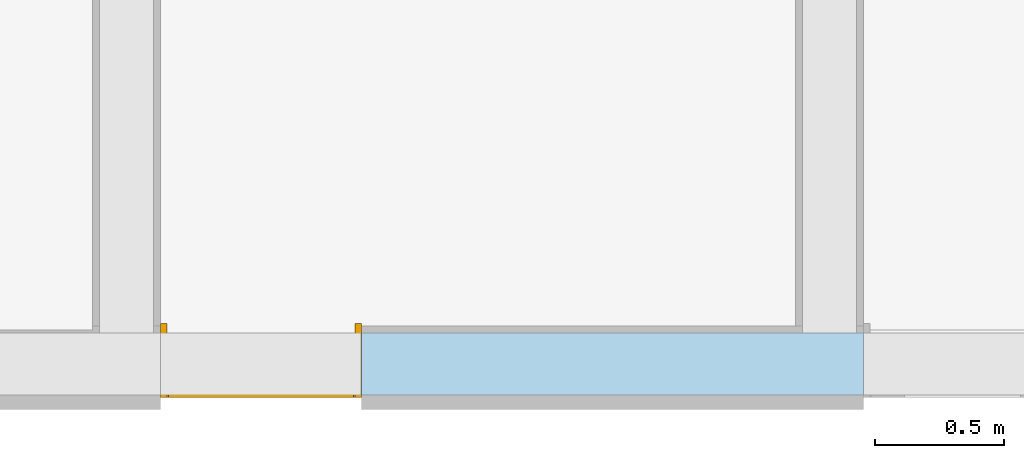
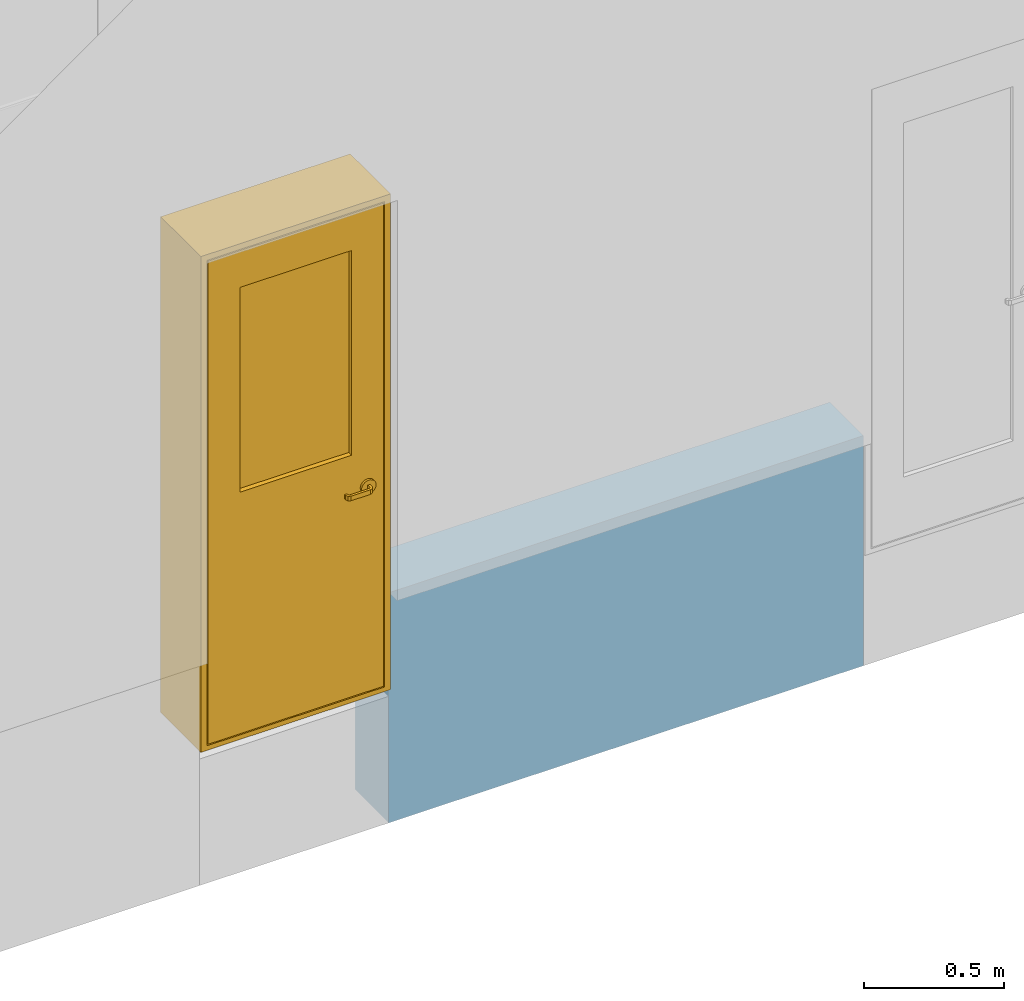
# One storey, part 20 of 22: 1 door, 2 openings, plus 1 element that does not belong to this part.
"""IFC4X3 building model written with IfcOpenShell, lengths in millimetres."""

from ifc_helpers import new_model, entity, si_unit, converted_unit, derived_unit, direction, frame, frame_2d, origin, origin_2d_with_axis, place, context, subcontext, project, spatial, rectangle, extrude, faceted_brep, source, transform, mapped, material, layer, layer_set, constituent, constituent_set, type_object, type_shapes, element, fill, save


model = new_model("IFC4X3")

# Units and contexts
model_context = context("Model", 3, precision=0.01, world=origin(), true_north=direction((6.12303176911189e-17, 1.0)))
body_context = subcontext(model_context, "Body", "Model", "MODEL_VIEW")
ifc_project = project(units=[si_unit("LENGTHUNIT", "METRE", prefix="MILLI"), si_unit("AREAUNIT", "SQUARE_METRE"), si_unit("VOLUMEUNIT", "CUBIC_METRE"), converted_unit("PLANEANGLEUNIT", "DEGREE", entity("IfcPlaneAngleMeasure", 0.0174532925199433), si_unit("PLANEANGLEUNIT", "RADIAN"), dimensions=[0, 0, 0, 0, 0, 0, 0]), si_unit("MASSUNIT", "GRAM", prefix="KILO"), derived_unit("MASSDENSITYUNIT", [(si_unit("MASSUNIT", "GRAM", prefix="KILO"), 1), (si_unit("LENGTHUNIT", "METRE"), -3)]), derived_unit("IONCONCENTRATIONUNIT", [(si_unit("MASSUNIT", "GRAM", prefix="KILO"), 1), (si_unit("LENGTHUNIT", "METRE"), -3)]), derived_unit("MOMENTOFINERTIAUNIT", [(si_unit("LENGTHUNIT", "METRE"), 4)]), si_unit("TIMEUNIT", "SECOND"), si_unit("FREQUENCYUNIT", "HERTZ"), si_unit("THERMODYNAMICTEMPERATUREUNIT", "DEGREE_CELSIUS"), derived_unit("THERMALTRANSMITTANCEUNIT", [(si_unit("MASSUNIT", "GRAM", prefix="KILO"), 1), (si_unit("THERMODYNAMICTEMPERATUREUNIT", "KELVIN"), -1), (si_unit("TIMEUNIT", "SECOND"), -3)]), derived_unit("THERMALCONDUCTANCEUNIT", [(si_unit("MASSUNIT", "GRAM", prefix="KILO"), 1), (si_unit("THERMODYNAMICTEMPERATUREUNIT", "KELVIN"), -1), (si_unit("TIMEUNIT", "SECOND"), -3), (si_unit("LENGTHUNIT", "METRE"), 1)]), derived_unit("VOLUMETRICFLOWRATEUNIT", [(si_unit("LENGTHUNIT", "METRE", prefix="DECI"), 3), (si_unit("TIMEUNIT", "SECOND"), -1)]), derived_unit("MASSFLOWRATEUNIT", [(si_unit("MASSUNIT", "GRAM", prefix="KILO"), 1), (si_unit("TIMEUNIT", "SECOND"), -1)]), derived_unit("ROTATIONALFREQUENCYUNIT", [(si_unit("TIMEUNIT", "SECOND"), -1)]), si_unit("ELECTRICCURRENTUNIT", "AMPERE"), si_unit("ELECTRICVOLTAGEUNIT", "VOLT"), si_unit("POWERUNIT", "WATT"), si_unit("FORCEUNIT", "NEWTON", prefix="KILO"), si_unit("ILLUMINANCEUNIT", "LUX"), si_unit("LUMINOUSFLUXUNIT", "LUMEN"), si_unit("LUMINOUSINTENSITYUNIT", "CANDELA"), si_unit("ENERGYUNIT", "JOULE"), derived_unit("USERDEFINED", [(si_unit("MASSUNIT", "GRAM", prefix="KILO"), -1), (si_unit("LENGTHUNIT", "METRE"), -2), (si_unit("TIMEUNIT", "SECOND"), 3), (si_unit("LUMINOUSFLUXUNIT", "LUMEN"), 1)]), derived_unit("USERDEFINED", [(si_unit("MASSUNIT", "GRAM", prefix="KILO"), 1), (si_unit("TIMEUNIT", "SECOND"), -3), (si_unit("LENGTHUNIT", "METRE"), 3), (si_unit("ELECTRICCURRENTUNIT", "AMPERE"), -2)]), derived_unit("SOUNDPOWERUNIT", [(si_unit("MASSUNIT", "GRAM", prefix="KILO"), 1), (si_unit("TIMEUNIT", "SECOND"), -3), (si_unit("LENGTHUNIT", "METRE"), 2)]), derived_unit("SOUNDPRESSUREUNIT", [(si_unit("MASSUNIT", "GRAM", prefix="KILO"), 1), (si_unit("LENGTHUNIT", "METRE"), -1), (si_unit("TIMEUNIT", "SECOND"), -2)]), derived_unit("LINEARVELOCITYUNIT", [(si_unit("LENGTHUNIT", "METRE"), 1), (si_unit("TIMEUNIT", "SECOND"), -1)]), si_unit("PRESSUREUNIT", "PASCAL"), derived_unit("USERDEFINED", [(si_unit("MASSUNIT", "GRAM", prefix="KILO"), 1), (si_unit("LENGTHUNIT", "METRE"), -2), (si_unit("TIMEUNIT", "SECOND"), -2)]), derived_unit("LINEARFORCEUNIT", [(si_unit("MASSUNIT", "GRAM", prefix="KILO"), 1), (si_unit("TIMEUNIT", "SECOND"), -2)]), derived_unit("PLANARFORCEUNIT", [(si_unit("MASSUNIT", "GRAM", prefix="KILO"), 1), (si_unit("LENGTHUNIT", "METRE"), -1), (si_unit("TIMEUNIT", "SECOND"), -2)]), derived_unit("SPECIFICHEATCAPACITYUNIT", [(si_unit("THERMODYNAMICTEMPERATUREUNIT", "KELVIN"), -1), (si_unit("LENGTHUNIT", "METRE"), 2), (si_unit("TIMEUNIT", "SECOND"), -2)]), derived_unit("HEATFLUXDENSITYUNIT", [(si_unit("MASSUNIT", "GRAM", prefix="KILO"), 1), (si_unit("TIMEUNIT", "SECOND"), -3)]), derived_unit("HEATINGVALUEUNIT", [(si_unit("LENGTHUNIT", "METRE"), 2), (si_unit("TIMEUNIT", "SECOND"), -2)]), derived_unit("VAPORPERMEABILITYUNIT", [(si_unit("LENGTHUNIT", "METRE"), -1), (si_unit("TIMEUNIT", "SECOND"), 1)]), derived_unit("DYNAMICVISCOSITYUNIT", [(si_unit("MASSUNIT", "GRAM", prefix="KILO"), 1), (si_unit("TIMEUNIT", "SECOND"), -1), (si_unit("LENGTHUNIT", "METRE"), -1)]), derived_unit("THERMALEXPANSIONCOEFFICIENTUNIT", [(si_unit("THERMODYNAMICTEMPERATUREUNIT", "KELVIN"), -1)]), derived_unit("MODULUSOFELASTICITYUNIT", [(si_unit("MASSUNIT", "GRAM", prefix="KILO"), 1), (si_unit("LENGTHUNIT", "METRE"), -1), (si_unit("TIMEUNIT", "SECOND"), -2)]), derived_unit("ISOTHERMALMOISTURECAPACITYUNIT", [(si_unit("MASSUNIT", "GRAM", prefix="KILO"), -1), (si_unit("LENGTHUNIT", "METRE"), 3)]), derived_unit("MOISTUREDIFFUSIVITYUNIT", [(si_unit("TIMEUNIT", "SECOND"), -1), (si_unit("LENGTHUNIT", "METRE"), 2)]), derived_unit("AREADENSITYUNIT", [(si_unit("MASSUNIT", "GRAM", prefix="KILO"), 1), (si_unit("LENGTHUNIT", "METRE"), 2)]), derived_unit("MASSPERLENGTHUNIT", [(si_unit("MASSUNIT", "GRAM", prefix="KILO"), 1), (si_unit("LENGTHUNIT", "METRE"), -1)]), derived_unit("THERMALRESISTANCEUNIT", [(si_unit("MASSUNIT", "GRAM", prefix="KILO"), -1), (si_unit("TIMEUNIT", "SECOND"), 3), (si_unit("THERMODYNAMICTEMPERATUREUNIT", "KELVIN"), 1)]), derived_unit("ACCELERATIONUNIT", [(si_unit("LENGTHUNIT", "METRE"), 1), (si_unit("TIMEUNIT", "SECOND"), -2)]), derived_unit("ANGULARVELOCITYUNIT", [(si_unit("TIMEUNIT", "SECOND"), -1), (si_unit("PLANEANGLEUNIT", "RADIAN"), 1)]), derived_unit("LINEARSTIFFNESSUNIT", [(si_unit("MASSUNIT", "GRAM", prefix="KILO"), 1), (si_unit("TIMEUNIT", "SECOND"), -2)]), derived_unit("WARPINGCONSTANTUNIT", [(si_unit("LENGTHUNIT", "METRE"), 6)]), derived_unit("LINEARMOMENTUNIT", [(si_unit("MASSUNIT", "GRAM", prefix="KILO"), 1), (si_unit("LENGTHUNIT", "METRE"), 1), (si_unit("TIMEUNIT", "SECOND"), -2)]), derived_unit("TORQUEUNIT", [(si_unit("MASSUNIT", "GRAM", prefix="KILO"), 1), (si_unit("LENGTHUNIT", "METRE"), 2), (si_unit("TIMEUNIT", "SECOND"), -2)])], contexts=[model_context])

# Site, building, storey
site_placement = place(None, origin())
site = spatial("IfcSite", under=ifc_project, at=site_placement, Name="Default", CompositionType="ELEMENT")
building_placement = place(site_placement, origin())
building = spatial("IfcBuilding", under=site, at=building_placement, Name="事務所ビル", CompositionType="ELEMENT")
storey_placement = place(building_placement, origin())
storey = spatial("IfcBuildingStorey", under=building, at=storey_placement, Name="1FL", CompositionType="ELEMENT", Elevation=0.0)

# Wall, openings, door
ifc_material_1 = material(Name="*コンクリート")
ifc_layer = layer(ifc_material_1, 240.0, Name="*コンクリート")
ifc_layer_set = layer_set([ifc_layer], Name="標準壁:(基礎梁)RC_w240h1000")
wall_type = type_object("IfcWallType", Name="標準壁:(基礎梁)RC_w240h1000", PredefinedType="STANDARD", material=ifc_layer_set)
wall_placement = place(storey_placement, frame((20020.0, 0.0, -600.0)))
wall = element("IfcWall", 1, at=wall_placement, inside=storey, type_object=wall_type, material=ifc_layer_set, Name="標準壁:(基礎梁)RC_w240h1000", ObjectType="標準壁:(基礎梁)RC_w240h1000", PredefinedType="NOTDEFINED", context=body_context, shape_type="SweptSolid", body=[
    extrude(rectangle(XDim=1952.00000000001, YDim=240.0, at=frame_2d((976.000000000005, 0.0), x_axis=(-1.0, 0.0))), origin(), (0.0, 0.0, 1.0), 1000.0),
])
opening_1_placement = place(wall_placement, frame((-20020.0, 0.0, 500.0)))
element("IfcOpeningElement", 2, at=opening_1_placement, cuts=wall, Name="標準壁:(基礎梁)RC_w240h1000", PredefinedType="OPENING", context=body_context, shape_type="SweptSolid", body=[
    extrude(rectangle(XDim=2055.00000000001, YDim=1480.0, at=origin_2d_with_axis()), frame((22712.0, -1404.0, 1012.49999999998), z_axis=(0.0, 1.0, 0.0), x_axis=(0.0, 0.0, -1.0)), (0.0, 0.0, 1.0), 3048.0),
])
opening_2_placement = place(wall_placement, frame((2.0, 120.0, 585.0)))
opening_2 = element("IfcOpeningElement", 3, at=opening_2_placement, cuts=wall, Name="鋼製_大枠_片開き_窓付:700x2100:1", PredefinedType="OPENING", context=body_context, shape_type="SweptSolid", body=[
    extrude(rectangle(XDim=2155.00000000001, YDim=779.999999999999, at=frame_2d((1077.5, 390.0), x_axis=(-1.0, 0.0))), frame((0.0, 0.0, 0.0), z_axis=(0.0, -1.0, 0.0), x_axis=(0.0, 0.0, 1.0)), (0.0, 0.0, 1.0), 240.0),
])
ifc_material_2 = material(Name="ステンレス", Category="未設定")
ifc_constituent_1 = constituent(ifc_material_2, Name="ステンレス", Category="未設定")
ifc_material_3 = material(Name="塗装 - 白", Category="未設定")
ifc_constituent_2 = constituent(ifc_material_3, Name="塗装 - 白", Category="未設定")
ifc_material_4 = material(Name="ガラス", Category="ガラス")
ifc_constituent_3 = constituent(ifc_material_4, Name="ガラス", Category="ガラス")
ifc_constituent_set_1 = constituent_set(constituents=[ifc_constituent_1, ifc_constituent_2, ifc_constituent_3])
ifc_constituent_4 = constituent(ifc_material_2, Name="ハンドル", Category="未設定")
ifc_constituent_5 = constituent(ifc_material_3, Name="パネル", Category="未設定")
ifc_constituent_6 = constituent(ifc_material_4, Name="ガラス", Category="ガラス")
ifc_constituent_7 = constituent(ifc_material_3, Name="フレーム/マリオン", Category="未設定")
ifc_constituent_set_2 = constituent_set(constituents=[ifc_constituent_4, ifc_constituent_5, ifc_constituent_6, ifc_constituent_7])
door_type = type_object("IfcDoorType", Name="鋼製_大枠_片開き_窓付:700x2100", OperationType="SINGLE_SWING_RIGHT", ParameterTakesPrecedence=False, PredefinedType="DOOR", material=ifc_constituent_set_2)
shared_shape = source(origin(), body_context, "Body", "Brep", [
    faceted_brep([(90.0, 260.0, 930.0), (90.0, 260.0, 910.0), (100.0, 260.0, 910.0), (100.0, 260.0, 930.0), (100.0, 275.0, 910.0), (100.0, 275.0, 930.0), (190.0, 270.0, 930.0), (200.0, 270.0, 930.0), (200.0, 275.0, 930.0), (198.349630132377, 278.984345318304, 930.0), (196.978115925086, 282.295473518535, 930.0), (195.606601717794, 285.606601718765, 930.0), (192.954951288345, 286.704951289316, 930.0), (190.303300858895, 287.803300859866, 930.0), (187.651650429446, 288.901650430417, 930.0), (185.0, 290.0, 930.0), (105.0, 290.0, 930.0), (101.015654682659, 288.349630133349, 930.0), (97.7045264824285, 286.978115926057, 930.0), (94.3933982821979, 285.606601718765, 930.0), (93.2950487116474, 282.954951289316, 930.0), (92.196699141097, 280.303300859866, 930.0), (91.0983495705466, 277.651650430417, 930.0), (90.0, 275.0, 930.0), (101.464466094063, 278.5355339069, 930.0), (105.0, 280.0, 930.0), (185.0, 280.0, 930.0), (188.535533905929, 278.5355339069, 930.0), (190.0, 275.0, 930.0), (90.0, 275.0, 910.0), (90.8251847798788, 276.992172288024, 910.0), (92.196699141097, 280.303300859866, 910.0), (93.2950487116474, 282.954951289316, 910.0), (94.3933982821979, 285.606601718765, 910.0), (97.0450487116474, 286.704951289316, 910.0), (99.6966991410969, 287.803300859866, 910.0), (102.348349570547, 288.901650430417, 910.0), (105.0, 290.0, 910.0), (185.0, 290.0, 910.0), (186.992172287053, 289.174815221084, 910.0), (190.303300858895, 287.803300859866, 910.0), (192.954951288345, 286.704951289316, 910.0), (195.606601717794, 285.606601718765, 910.0), (196.704951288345, 282.954951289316, 910.0), (197.803300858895, 280.303300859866, 910.0), (198.901650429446, 277.651650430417, 910.0), (200.0, 275.0, 910.0), (200.0, 270.0, 910.0), (190.0, 270.0, 910.0), (190.0, 275.0, 910.0), (188.535533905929, 278.5355339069, 910.0), (185.0, 280.0, 910.0), (105.0, 280.0, 910.0), (101.464466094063, 278.5355339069, 910.0)], [[[0, 1, 2, 3]], [[3, 2, 4, 5]], [[6, 7, 8, 9, 10, 11, 12, 13, 14, 15, 16, 17, 18, 19, 20, 21, 22, 23, 0, 3, 5, 24, 25, 26, 27, 28]], [[1, 0, 23, 29]], [[2, 1, 29, 30, 31, 32, 33, 34, 35, 36, 37, 38, 39, 40, 41, 42, 43, 44, 45, 46, 47, 48, 49, 50, 51, 52, 53, 4]], [[53, 24, 5, 4]], [[52, 25, 24, 53]], [[21, 20, 19, 33, 32, 31, 30, 29, 23, 22]], [[33, 19, 18, 17, 16, 37, 36, 35, 34]], [[25, 52, 51, 26]], [[37, 16, 15, 38]], [[50, 27, 26, 51]], [[49, 28, 27, 50]], [[13, 12, 11, 42, 41, 40, 39, 38, 15, 14]], [[42, 11, 10, 9, 8, 46, 45, 44, 43]], [[7, 6, 48, 47]], [[28, 49, 48, 6]], [[46, 8, 7, 47]]]),
    faceted_brep([(110.0, 260.0, 945.980762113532), (116.213203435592, 260.0, 941.213203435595), (120.980762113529, 260.0, 935.0), (123.977774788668, 260.0, 927.764571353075), (125.0, 260.0, 920.0), (123.977774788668, 260.0, 912.235428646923), (120.980762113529, 260.0, 905.0), (116.213203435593, 260.0, 898.786796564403), (110.0, 260.0, 894.019237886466), (102.764571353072, 260.0, 891.022225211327), (95.0, 260.0, 890.0), (87.2354286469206, 260.0, 891.022225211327), (80.0, 260.0, 894.019237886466), (73.7867965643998, 260.0, 898.786796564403), (69.0192378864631, 260.0, 905.0), (66.0222252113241, 260.0, 912.235428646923), (65.0, 260.0, 920.0), (66.022225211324, 260.0, 927.764571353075), (69.0192378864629, 260.0, 935.0), (73.7867965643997, 260.0, 941.213203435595), (80.0, 260.0, 945.980762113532), (87.2354286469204, 260.0, 948.977774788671), (95.0, 260.0, 950.0), (102.764571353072, 260.0, 948.977774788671), (116.213203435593, 250.0, 898.786796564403), (120.980762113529, 250.0, 905.0), (123.977774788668, 250.0, 912.235428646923), (125.0, 250.0, 920.0), (123.977774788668, 250.0, 927.764571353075), (120.980762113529, 250.0, 935.0), (116.213203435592, 250.0, 941.213203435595), (110.0, 250.0, 945.980762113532), (102.764571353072, 250.0, 948.977774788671), (95.0, 250.0, 950.0), (87.2354286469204, 250.0, 948.977774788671), (80.0, 250.0, 945.980762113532), (73.7867965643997, 250.0, 941.213203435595), (69.0192378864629, 250.0, 935.0), (66.022225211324, 250.0, 927.764571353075), (65.0, 250.0, 920.0), (66.0222252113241, 250.0, 912.235428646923), (69.0192378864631, 250.0, 905.0), (73.7867965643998, 250.0, 898.786796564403), (80.0, 250.0, 894.019237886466), (87.2354286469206, 250.0, 891.022225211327), (95.0, 250.0, 890.0), (102.764571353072, 250.0, 891.022225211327), (110.0, 250.0, 894.019237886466)], [[[0, 1, 2, 3, 4, 5, 6, 7, 8, 9, 10, 11, 12, 13, 14, 15, 16, 17, 18, 19, 20, 21, 22, 23]], [[24, 25, 26, 27, 28, 29, 30, 31, 32, 33, 34, 35, 36, 37, 38, 39, 40, 41, 42, 43, 44, 45, 46, 47]], [[38, 17, 16, 39]], [[37, 18, 17, 38]], [[20, 19, 36, 35]], [[37, 36, 19, 18]], [[21, 20, 35, 34]], [[22, 21, 34, 33]], [[32, 23, 22, 33]], [[31, 0, 23, 32]], [[2, 1, 30, 29]], [[31, 30, 1, 0]], [[3, 2, 29, 28]], [[4, 3, 28, 27]], [[26, 5, 4, 27]], [[25, 6, 5, 26]], [[8, 7, 24, 47]], [[25, 24, 7, 6]], [[9, 8, 47, 46]], [[10, 9, 46, 45]], [[44, 11, 10, 45]], [[43, 12, 11, 44]], [[14, 13, 42, 41]], [[43, 42, 13, 12]], [[15, 14, 41, 40]], [[16, 15, 40, 39]]]),
    faceted_brep([(90.0, 200.0, 910.0), (90.0, 200.0, 930.0), (100.0, 200.0, 930.0), (100.0, 200.0, 910.0), (190.0, 190.0, 910.0), (200.0, 190.0, 910.0), (200.0, 185.0, 910.0), (198.349630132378, 181.01565468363, 910.0), (196.978115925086, 177.7045264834, 910.0), (195.606601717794, 174.393398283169, 910.0), (192.954951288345, 173.295048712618, 910.0), (190.303300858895, 172.196699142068, 910.0), (187.651650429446, 171.098349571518, 910.0), (185.0, 170.0, 910.0), (105.0, 170.0, 910.0), (101.015654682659, 171.650369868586, 910.0), (97.7045264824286, 173.021884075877, 910.0), (94.3933982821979, 174.393398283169, 910.0), (93.2950487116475, 177.045048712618, 910.0), (92.196699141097, 179.696699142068, 910.0), (91.0983495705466, 182.348349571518, 910.0), (90.0, 185.0, 910.0), (100.0, 185.0, 910.0), (101.464466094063, 181.464466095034, 910.0), (105.0, 180.0, 910.0), (185.0, 180.0, 910.0), (188.535533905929, 181.464466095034, 910.0), (190.0, 185.0, 910.0), (90.0, 185.0, 930.0), (90.8251847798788, 183.00782771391, 930.0), (92.196699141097, 179.696699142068, 930.0), (93.2950487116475, 177.045048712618, 930.0), (94.3933982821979, 174.393398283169, 930.0), (97.0450487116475, 173.295048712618, 930.0), (99.696699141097, 172.196699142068, 930.0), (102.348349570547, 171.098349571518, 930.0), (105.0, 170.0, 930.0), (185.0, 170.0, 930.0), (186.992172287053, 170.82518478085, 930.0), (190.303300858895, 172.196699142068, 930.0), (192.954951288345, 173.295048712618, 930.0), (195.606601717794, 174.393398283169, 930.0), (196.704951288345, 177.045048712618, 930.0), (197.803300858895, 179.696699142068, 930.0), (198.901650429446, 182.348349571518, 930.0), (200.0, 185.0, 930.0), (200.0, 190.0, 930.0), (190.0, 190.0, 930.0), (190.0, 185.0, 930.0), (188.535533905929, 181.464466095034, 930.0), (185.0, 180.0, 930.0), (105.0, 180.0, 930.0), (101.464466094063, 181.464466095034, 930.0), (100.0, 185.0, 930.0)], [[[0, 1, 2, 3]], [[4, 5, 6, 7, 8, 9, 10, 11, 12, 13, 14, 15, 16, 17, 18, 19, 20, 21, 0, 3, 22, 23, 24, 25, 26, 27]], [[1, 0, 21, 28]], [[2, 1, 28, 29, 30, 31, 32, 33, 34, 35, 36, 37, 38, 39, 40, 41, 42, 43, 44, 45, 46, 47, 48, 49, 50, 51, 52, 53]], [[3, 2, 53, 22]], [[19, 18, 17, 32, 31, 30, 29, 28, 21, 20]], [[32, 17, 16, 15, 14, 36, 35, 34, 33]], [[52, 23, 22, 53]], [[51, 24, 23, 52]], [[36, 14, 13, 37]], [[24, 51, 50, 25]], [[11, 10, 9, 41, 40, 39, 38, 37, 13, 12]], [[41, 9, 8, 7, 6, 45, 44, 43, 42]], [[49, 26, 25, 50]], [[48, 27, 26, 49]], [[5, 4, 47, 46]], [[45, 6, 5, 46]], [[27, 48, 47, 4]]]),
    faceted_brep([(110.0, 200.0, 894.019237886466), (116.213203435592, 200.0, 898.786796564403), (120.980762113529, 200.0, 905.0), (123.977774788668, 200.0, 912.235428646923), (125.0, 200.0, 920.0), (123.977774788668, 200.0, 927.764571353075), (120.980762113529, 200.0, 935.0), (116.213203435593, 200.0, 941.213203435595), (110.0, 200.0, 945.980762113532), (102.764571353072, 200.0, 948.977774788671), (95.0, 200.0, 950.0), (87.2354286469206, 200.0, 948.977774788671), (80.0, 200.0, 945.980762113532), (73.7867965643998, 200.0, 941.213203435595), (69.0192378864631, 200.0, 935.0), (66.0222252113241, 200.0, 927.764571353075), (65.0, 200.0, 920.0), (66.022225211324, 200.0, 912.235428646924), (69.0192378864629, 200.0, 905.0), (73.7867965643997, 200.0, 898.786796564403), (80.0, 200.0, 894.019237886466), (87.2354286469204, 200.0, 891.022225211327), (95.0, 200.0, 890.0), (102.764571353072, 200.0, 891.022225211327), (116.213203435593, 210.0, 941.213203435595), (120.980762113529, 210.0, 935.0), (123.977774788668, 210.0, 927.764571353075), (125.0, 210.0, 920.0), (123.977774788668, 210.0, 912.235428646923), (120.980762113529, 210.0, 905.0), (116.213203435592, 210.0, 898.786796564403), (110.0, 210.0, 894.019237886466), (102.764571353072, 210.0, 891.022225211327), (95.0, 210.0, 890.0), (87.2354286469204, 210.0, 891.022225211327), (80.0, 210.0, 894.019237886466), (73.7867965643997, 210.0, 898.786796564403), (69.0192378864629, 210.0, 905.0), (66.022225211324, 210.0, 912.235428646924), (65.0, 210.0, 920.0), (66.0222252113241, 210.0, 927.764571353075), (69.0192378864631, 210.0, 935.0), (73.7867965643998, 210.0, 941.213203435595), (80.0, 210.0, 945.980762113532), (87.2354286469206, 210.0, 948.977774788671), (95.0, 210.0, 950.0), (102.764571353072, 210.0, 948.977774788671), (110.0, 210.0, 945.980762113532)], [[[0, 1, 2, 3, 4, 5, 6, 7, 8, 9, 10, 11, 12, 13, 14, 15, 16, 17, 18, 19, 20, 21, 22, 23]], [[24, 25, 26, 27, 28, 29, 30, 31, 32, 33, 34, 35, 36, 37, 38, 39, 40, 41, 42, 43, 44, 45, 46, 47]], [[38, 17, 16, 39]], [[37, 18, 17, 38]], [[20, 19, 36, 35]], [[37, 36, 19, 18]], [[21, 20, 35, 34]], [[22, 21, 34, 33]], [[32, 23, 22, 33]], [[31, 0, 23, 32]], [[2, 1, 30, 29]], [[31, 30, 1, 0]], [[3, 2, 29, 28]], [[4, 3, 28, 27]], [[26, 5, 4, 27]], [[25, 6, 5, 26]], [[8, 7, 24, 47]], [[25, 24, 7, 6]], [[9, 8, 47, 46]], [[10, 9, 46, 45]], [[44, 11, 10, 45]], [[43, 12, 11, 44]], [[14, 13, 42, 41]], [[43, 42, 13, 12]], [[15, 14, 41, 40]], [[16, 15, 40, 39]]]),
    faceted_brep([(630.0, 210.0, 1065.0), (630.0, 210.0, 1975.0), (150.0, 210.0, 1975.0), (150.0, 210.0, 1065.0), (620.0, 210.0, 1075.0), (160.0, 210.0, 1075.0), (160.0, 210.0, 1965.0), (620.0, 210.0, 1965.0), (630.0, 250.0, 1065.0), (150.0, 250.0, 1065.0), (150.0, 250.0, 1975.0), (630.0, 250.0, 1975.0), (620.0, 250.0, 1075.0), (620.0, 250.0, 1965.0), (160.0, 250.0, 1965.0), (160.0, 250.0, 1075.0)], [[[0, 1, 2, 3], [4, 5, 6, 7]], [[8, 9, 10, 11], [12, 13, 14, 15]], [[1, 0, 8, 11]], [[2, 1, 11, 10]], [[3, 2, 10, 9]], [[0, 3, 9, 8]], [[5, 4, 12, 15]], [[6, 5, 15, 14]], [[7, 6, 14, 13]], [[4, 7, 13, 12]]]),
    faceted_brep([(630.0, 225.0, 1065.0), (630.0, 225.0, 1975.0), (150.0, 225.0, 1975.0), (150.0, 225.0, 1065.0), (630.0, 230.0, 1065.0), (150.0, 230.0, 1065.0), (150.0, 230.0, 1975.0), (630.0, 230.0, 1975.0)], [[[0, 1, 2, 3]], [[4, 5, 6, 7]], [[1, 0, 4, 7]], [[2, 1, 7, 6]], [[3, 2, 6, 5]], [[0, 3, 5, 4]]]),
    faceted_brep([(750.0, 210.0, 25.0), (750.0, 210.0, 2125.0), (30.0, 210.0, 2125.0), (30.0, 210.0, 25.0), (630.0, 210.0, 1065.0), (150.0, 210.0, 1065.0), (150.0, 210.0, 1975.0), (630.0, 210.0, 1975.0), (750.0, 250.0, 25.0), (30.0, 250.0, 25.0), (30.0, 250.0, 2125.0), (750.0, 250.0, 2125.0), (630.0, 250.0, 1065.0), (630.0, 250.0, 1975.0), (150.0, 250.0, 1975.0), (150.0, 250.0, 1065.0)], [[[0, 1, 2, 3], [4, 5, 6, 7]], [[8, 9, 10, 11], [12, 13, 14, 15]], [[1, 0, 8, 11]], [[2, 1, 11, 10]], [[3, 2, 10, 9]], [[0, 3, 9, 8]], [[5, 4, 12, 15]], [[6, 5, 15, 14]], [[7, 6, 14, 13]], [[4, 7, 13, 12]]]),
    faceted_brep([(755.0, 250.0, 20.0), (755.0, 205.0, 20.0), (755.0, 205.0, 30.0), (755.0, 175.0, 30.0), (755.0, 150.0, 20.0), (755.0, 150.0, 0.0), (755.0, 250.0, 0.0), (25.0, 250.0, 20.0), (25.0, 250.0, 0.0), (25.0, 150.0, 0.0), (25.0, 150.0, 20.0), (25.0, 175.0, 30.0), (25.0, 205.0, 30.0), (25.0, 205.0, 20.0)], [[[0, 1, 2, 3, 4, 5, 6]], [[7, 8, 9, 10, 11, 12, 13]], [[1, 0, 7, 13]], [[2, 1, 13, 12]], [[3, 2, 12, 11]], [[4, 3, 11, 10]], [[5, 4, 10, 9]], [[6, 5, 9, 8]], [[0, 6, 8, 7]]]),
    faceted_brep([(25.0, 250.0, 0.0), (25.0, 205.0, 0.0), (40.0, 205.0, 0.0), (40.0, 175.0, 0.0), (25.0, 175.0, 0.0), (25.0, -37.0, 0.0), (0.0, -37.0, 0.0), (0.0, 250.0, 0.0), (25.0, 250.0, 2130.0), (25.0, 205.0, 2130.0), (755.0, 205.0, 2130.0), (755.0, 205.0, 0.0), (740.0, 205.0, 0.0), (740.0, 205.0, 2115.0), (40.0, 205.0, 2115.0), (40.0, 175.0, 2115.0), (740.0, 175.0, 2115.0), (740.0, 175.0, 0.0), (755.0, 175.0, 0.0), (755.0, 175.0, 2130.0), (25.0, 175.0, 2130.0), (25.0, -37.0, 2130.0), (755.0, -37.0, 2130.0), (755.0, -37.0, 0.0), (780.0, -37.0, 0.0), (780.0, -37.0, 2155.0), (0.0, -37.0, 2155.0), (0.0, 250.0, 2155.0), (780.0, 250.0, 2155.0), (780.0, 250.0, 0.0), (755.0, 250.0, 0.0), (755.0, 250.0, 2130.0)], [[[0, 1, 2, 3, 4, 5, 6, 7]], [[1, 0, 8, 9]], [[2, 1, 9, 10, 11, 12, 13, 14]], [[3, 2, 14, 15]], [[4, 3, 15, 16, 17, 18, 19, 20]], [[5, 4, 20, 21]], [[6, 5, 21, 22, 23, 24, 25, 26]], [[7, 6, 26, 27]], [[0, 7, 27, 28, 29, 30, 31, 8]], [[9, 8, 31, 10]], [[15, 14, 13, 16]], [[21, 20, 19, 22]], [[27, 26, 25, 28]], [[30, 29, 24, 23, 18, 17, 12, 11]], [[10, 31, 30, 11]], [[16, 13, 12, 17]], [[22, 19, 18, 23]], [[28, 25, 24, 29]]]),
])
type_shapes(door_type, [shared_shape])
door_placement = place(opening_2_placement, frame((0.0, 0.0, 0.0), z_axis=(0.0, 0.0, 1.0), x_axis=(-1.0, 0.0, 0.0)))
door = element("IfcDoor", 4, at=door_placement, inside=storey, type_object=door_type, material=ifc_constituent_set_1, Name="鋼製_大枠_片開き_窓付:700x2100", ObjectType="鋼製_大枠_片開き_窓付:700x2100", OperationType="SINGLE_SWING_RIGHT", OverallHeight=2155.00000000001, OverallWidth=780.0, PredefinedType="DOOR", context=body_context, shape_type="MappedRepresentation", body=[
    mapped(shared_shape, transform((0.0, 0.0, 0.0), scale=1.0)),
])
fill(opening_2, door)

save(model, "model.ifc")
